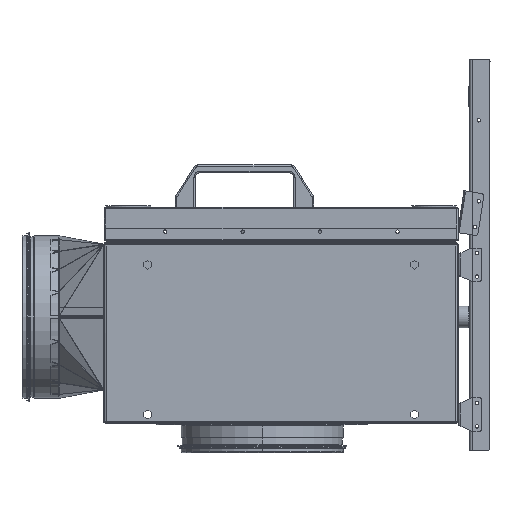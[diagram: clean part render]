
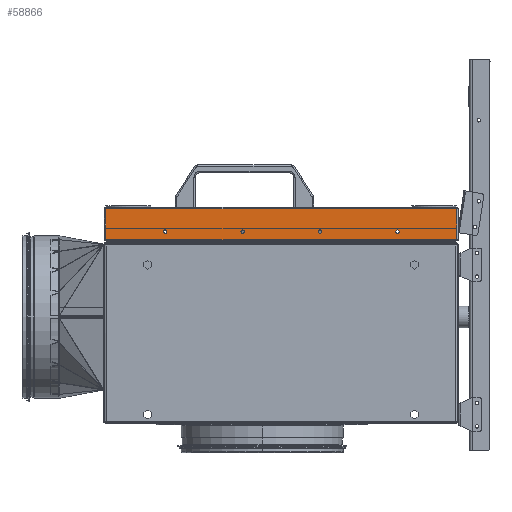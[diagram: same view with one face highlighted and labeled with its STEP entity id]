
A CAD part, left-side view. The second image highlights one B-rep face of the part: STEP entity #58866.
In plain terms, the highlighted planar face has unit normal (-1, 0, 0).
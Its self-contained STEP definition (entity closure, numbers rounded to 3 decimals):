
#1498 = CARTESIAN_POINT ( 'NONE',  ( -246.065, -47.86, 235.4 ) ) ;
#1575 = DIRECTION ( 'NONE',  ( 1., 0., 0. ) ) ;
#1578 = DIRECTION ( 'NONE',  ( 0., 0., -1. ) ) ;
#1827 = DIRECTION ( 'NONE',  ( 0., 0., -1. ) ) ;
#1830 = DIRECTION ( 'NONE',  ( 1., 0., 0. ) ) ;
#1836 = CARTESIAN_POINT ( 'NONE',  ( -246.065, 142.14, 235.4 ) ) ;
#1840 = CARTESIAN_POINT ( 'NONE',  ( -246.065, 216.34, 263.4 ) ) ;
#1863 = DIRECTION ( 'NONE',  ( 0., -1., 0. ) ) ;
#2627 = AXIS2_PLACEMENT_3D ( 'NONE', #7029, #7027, #7041 ) ;
#3748 = AXIS2_PLACEMENT_3D ( 'NONE', #19273, #19272, #19271 ) ;
#3753 = AXIS2_PLACEMENT_3D ( 'NONE', #19303, #19302, #19301 ) ;
#3909 = AXIS2_PLACEMENT_3D ( 'NONE', #19019, #19018, #19017 ) ;
#4753 = AXIS2_PLACEMENT_3D ( 'NONE', #63661, #63815, #63813 ) ;
#4806 = AXIS2_PLACEMENT_3D ( 'NONE', #18904, #18903, #18902 ) ;
#4829 = AXIS2_PLACEMENT_3D ( 'NONE', #18865, #18863, #18862 ) ;
#5143 = AXIS2_PLACEMENT_3D ( 'NONE', #1498, #1575, #1578 ) ;
#5310 = AXIS2_PLACEMENT_3D ( 'NONE', #1836, #1830, #1827 ) ;
#7027 = DIRECTION ( 'NONE',  ( 1., 0., 0. ) ) ;
#7029 = CARTESIAN_POINT ( 'NONE',  ( -246.065, 216.34, 264.6 ) ) ;
#7035 = PLANE ( 'NONE',  #2627 ) ;
#7041 = DIRECTION ( 'NONE',  ( 0., 0., -1. ) ) ;
#12142 = CARTESIAN_POINT ( 'NONE',  ( -246.065, -142.86, 233.3 ) ) ;
#12373 = CARTESIAN_POINT ( 'NONE',  ( -246.065, 215.14, 224.9 ) ) ;
#12428 = CARTESIAN_POINT ( 'NONE',  ( -246.065, -142.86, 237.5 ) ) ;
#12430 = CARTESIAN_POINT ( 'NONE',  ( -246.065, 47.14, 233.3 ) ) ;
#15364 = FACE_BOUND ( 'NONE', #26515, .T. ) ;
#15366 = FACE_OUTER_BOUND ( 'NONE', #25613, .T. ) ;
#15368 = FACE_BOUND ( 'NONE', #25639, .T. ) ;
#15370 = FACE_BOUND ( 'NONE', #25623, .T. ) ;
#15371 = FACE_BOUND ( 'NONE', #25625, .T. ) ;
#15837 = CARTESIAN_POINT ( 'NONE',  ( -246.065, -215.34, 224.9 ) ) ;
#15853 = CARTESIAN_POINT ( 'NONE',  ( -246.065, 142.14, 237.5 ) ) ;
#15946 = CARTESIAN_POINT ( 'NONE',  ( -246.065, 215.14, 263.4 ) ) ;
#16102 = CARTESIAN_POINT ( 'NONE',  ( -246.065, -47.86, 237.5 ) ) ;
#16103 = CARTESIAN_POINT ( 'NONE',  ( -246.065, 142.14, 233.3 ) ) ;
#16126 = CARTESIAN_POINT ( 'NONE',  ( -246.065, -215.34, 263.4 ) ) ;
#18464 = CARTESIAN_POINT ( 'NONE',  ( -246.065, 215.14, 263.4 ) ) ;
#18671 = DIRECTION ( 'NONE',  ( 0., -1., 0. ) ) ;
#18672 = CARTESIAN_POINT ( 'NONE',  ( -246.065, -216.54, 224.9 ) ) ;
#18765 = CARTESIAN_POINT ( 'NONE',  ( -246.065, -215.34, 224.9 ) ) ;
#18844 = DIRECTION ( 'NONE',  ( 0., 0., 1. ) ) ;
#18862 = DIRECTION ( 'NONE',  ( 0., 0., -1. ) ) ;
#18863 = DIRECTION ( 'NONE',  ( 1., 0., 0. ) ) ;
#18865 = CARTESIAN_POINT ( 'NONE',  ( -246.065, 142.14, 235.4 ) ) ;
#18902 = DIRECTION ( 'NONE',  ( 0., 0., -1. ) ) ;
#18903 = DIRECTION ( 'NONE',  ( 1., 0., 0. ) ) ;
#18904 = CARTESIAN_POINT ( 'NONE',  ( -246.065, 47.14, 235.4 ) ) ;
#19017 = DIRECTION ( 'NONE',  ( 0., 0., -1. ) ) ;
#19018 = DIRECTION ( 'NONE',  ( 1., 0., 0. ) ) ;
#19019 = CARTESIAN_POINT ( 'NONE',  ( -246.065, 47.14, 235.4 ) ) ;
#19270 = DIRECTION ( 'NONE',  ( 0., 0., -1. ) ) ;
#19271 = DIRECTION ( 'NONE',  ( 0., 0., -1. ) ) ;
#19272 = DIRECTION ( 'NONE',  ( 1., 0., 0. ) ) ;
#19273 = CARTESIAN_POINT ( 'NONE',  ( -246.065, -47.86, 235.4 ) ) ;
#19301 = DIRECTION ( 'NONE',  ( 0., 0., -1. ) ) ;
#19302 = DIRECTION ( 'NONE',  ( 1., 0., 0. ) ) ;
#19303 = CARTESIAN_POINT ( 'NONE',  ( -246.065, -142.86, 235.4 ) ) ;
#23848 = EDGE_CURVE ( 'NONE', #54576, #55148, #71672, .T. ) ;
#23849 = EDGE_CURVE ( 'NONE', #54801, #55231, #71674, .T. ) ;
#24010 = EDGE_CURVE ( 'NONE', #55146, #45476, #71903, .T. ) ;
#24752 = EDGE_CURVE ( 'NONE', #50352, #50080, #78892, .T. ) ;
#25148 = ORIENTED_EDGE ( 'NONE', *, *, #35474, .T. ) ;
#25151 = ORIENTED_EDGE ( 'NONE', *, *, #35550, .T. ) ;
#25158 = ORIENTED_EDGE ( 'NONE', *, *, #35963, .T. ) ;
#25206 = ORIENTED_EDGE ( 'NONE', *, *, #23848, .T. ) ;
#25371 = ORIENTED_EDGE ( 'NONE', *, *, #24752, .T. ) ;
#25380 = ORIENTED_EDGE ( 'NONE', *, *, #24010, .T. ) ;
#25381 = ORIENTED_EDGE ( 'NONE', *, *, #35829, .T. ) ;
#25384 = ORIENTED_EDGE ( 'NONE', *, *, #23849, .F. ) ;
#25385 = ORIENTED_EDGE ( 'NONE', *, *, #35864, .T. ) ;
#25386 = ORIENTED_EDGE ( 'NONE', *, *, #35732, .T. ) ;
#25388 = ORIENTED_EDGE ( 'NONE', *, *, #35844, .T. ) ;
#25391 = ORIENTED_EDGE ( 'NONE', *, *, #35945, .T. ) ;
#25613 = EDGE_LOOP ( 'NONE', ( #25151, #25384, #25385, #25386 ) ) ;
#25623 = EDGE_LOOP ( 'NONE', ( #25388, #25380 ) ) ;
#25625 = EDGE_LOOP ( 'NONE', ( #25158, #25206 ) ) ;
#25639 = EDGE_LOOP ( 'NONE', ( #25381, #25371 ) ) ;
#26515 = EDGE_LOOP ( 'NONE', ( #25391, #25148 ) ) ;
#35474 = EDGE_CURVE ( 'NONE', #45519, #50354, #79355, .T. ) ;
#35550 = EDGE_CURVE ( 'NONE', #54541, #55231, #80509, .T. ) ;
#35732 = EDGE_CURVE ( 'NONE', #50300, #54541, #80779, .T. ) ;
#35829 = EDGE_CURVE ( 'NONE', #50080, #50352, #80954, .T. ) ;
#35844 = EDGE_CURVE ( 'NONE', #45476, #55146, #80973, .T. ) ;
#35864 = EDGE_CURVE ( 'NONE', #54801, #50300, #81007, .T. ) ;
#35945 = EDGE_CURVE ( 'NONE', #50354, #45519, #81120, .T. ) ;
#35963 = EDGE_CURVE ( 'NONE', #55148, #54576, #81114, .T. ) ;
#45476 = VERTEX_POINT ( 'NONE', #68740 ) ;
#45519 = VERTEX_POINT ( 'NONE', #68848 ) ;
#50080 = VERTEX_POINT ( 'NONE', #12142 ) ;
#50300 = VERTEX_POINT ( 'NONE', #12373 ) ;
#50352 = VERTEX_POINT ( 'NONE', #12428 ) ;
#50354 = VERTEX_POINT ( 'NONE', #12430 ) ;
#54541 = VERTEX_POINT ( 'NONE', #15837 ) ;
#54576 = VERTEX_POINT ( 'NONE', #15853 ) ;
#54801 = VERTEX_POINT ( 'NONE', #15946 ) ;
#55146 = VERTEX_POINT ( 'NONE', #16102 ) ;
#55148 = VERTEX_POINT ( 'NONE', #16103 ) ;
#55231 = VERTEX_POINT ( 'NONE', #16126 ) ;
#58866 = ADVANCED_FACE ( 'NONE', ( #15364, #15371, #15366, #15370, #15368 ), #7035, .F. ) ;
#63661 = CARTESIAN_POINT ( 'NONE',  ( -246.065, -142.86, 235.4 ) ) ;
#63813 = DIRECTION ( 'NONE',  ( 0., 0., -1. ) ) ;
#63815 = DIRECTION ( 'NONE',  ( 1., 0., 0. ) ) ;
#68740 = CARTESIAN_POINT ( 'NONE',  ( -246.065, -47.86, 233.3 ) ) ;
#68848 = CARTESIAN_POINT ( 'NONE',  ( -246.065, 47.14, 237.5 ) ) ;
#71672 = CIRCLE ( 'NONE', #5310, 2.1 ) ;
#71674 = LINE ( 'NONE', #1840, #71677 ) ;
#71677 = VECTOR ( 'NONE', #1863, 1000. ) ;
#71903 = CIRCLE ( 'NONE', #5143, 2.1 ) ;
#78892 = CIRCLE ( 'NONE', #4753, 2.1 ) ;
#79355 = CIRCLE ( 'NONE', #3909, 2.1 ) ;
#80509 = LINE ( 'NONE', #18765, #80515 ) ;
#80515 = VECTOR ( 'NONE', #18844, 1000. ) ;
#80779 = LINE ( 'NONE', #18672, #80785 ) ;
#80785 = VECTOR ( 'NONE', #18671, 1000. ) ;
#80954 = CIRCLE ( 'NONE', #3753, 2.1 ) ;
#80973 = CIRCLE ( 'NONE', #3748, 2.1 ) ;
#81007 = LINE ( 'NONE', #18464, #81011 ) ;
#81011 = VECTOR ( 'NONE', #19270, 1000. ) ;
#81114 = CIRCLE ( 'NONE', #4829, 2.1 ) ;
#81120 = CIRCLE ( 'NONE', #4806, 2.1 ) ;
